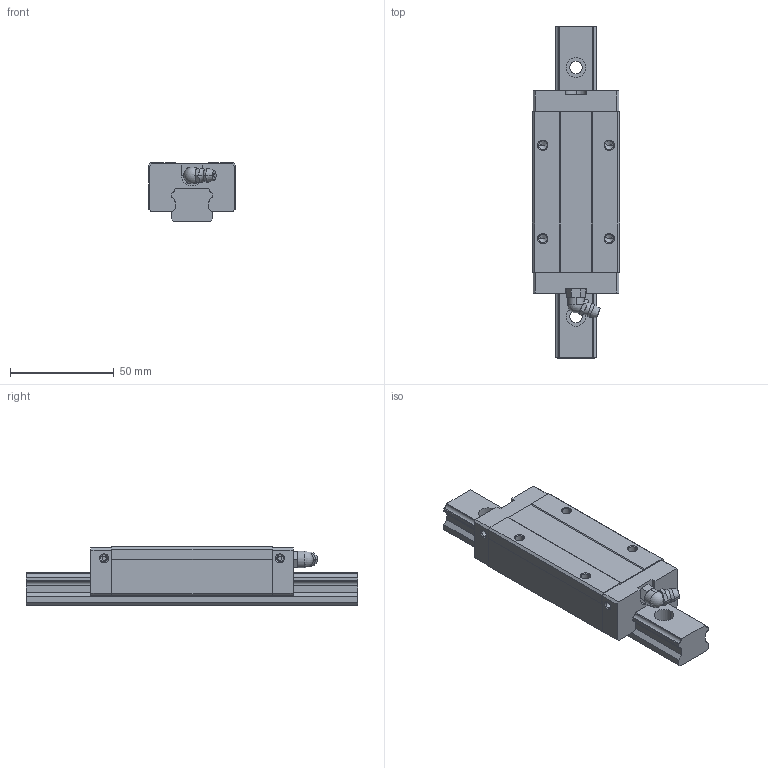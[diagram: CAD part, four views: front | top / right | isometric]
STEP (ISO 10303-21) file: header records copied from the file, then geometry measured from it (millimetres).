
FILE_DESCRIPTION((''),'1');
FILE_NAME(' ',' ',(''),(''),'ACIS Interop R16','Kubotek KeyCreator V6.5.2 (0407)',' ');
FILE_SCHEMA(('CONFIG_CONTROL_DESIGN'));
Length unit declared in the file: millimetre
Products named in the file (3): 1; 2; 3
Bounding box: 42 x 160 x 28 mm (x, y, z)
Volume: 117867.6 mm3; surface area: 30500.7 mm2
Topology: 3 solids, 3 shells, 205 faces, 531 edges, 341 vertices
Faces by surface type: plane 98, cylinder 66, cone 26, torus 10, sphere 3, bspline 2
Entity records: 6508 total; most frequent: CARTESIAN_POINT 1268, DIRECTION 1106, ORIENTED_EDGE 1042, EDGE_CURVE 521, AXIS2_PLACEMENT_3D 399, VERTEX_POINT 341, LINE 308, VECTOR 308
